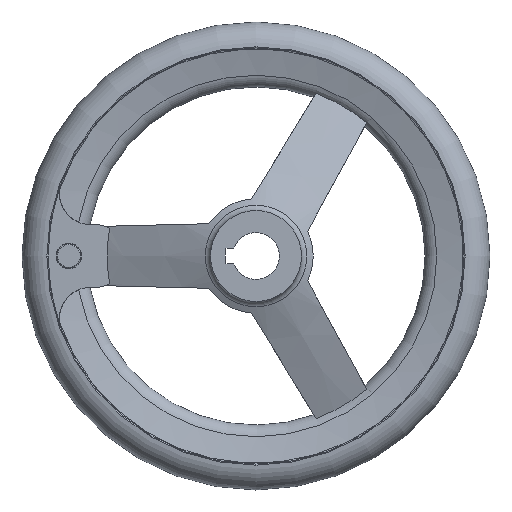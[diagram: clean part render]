
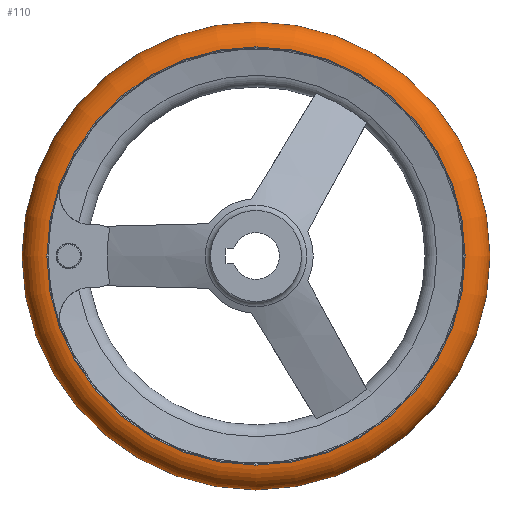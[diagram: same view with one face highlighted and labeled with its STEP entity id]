
A CAD part, left-side view. The second image highlights one B-rep face of the part: STEP entity #110.
In plain terms, the highlighted toroidal (fillet/blend) face has major radius 79.991 mm and minor radius 10.009 mm.
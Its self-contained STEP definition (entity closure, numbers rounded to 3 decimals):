
#110 = ADVANCED_FACE( '', ( #215, #216, #217 ), #218, .T. );
#215 = FACE_BOUND( '', #375, .T. );
#216 = FACE_OUTER_BOUND( '', #376, .T. );
#217 = FACE_OUTER_BOUND( '', #377, .T. );
#218 = TOROIDAL_SURFACE( '', #378, 79.991, 10.009 );
#375 = VERTEX_LOOP( '', #678 );
#376 = EDGE_LOOP( '', ( #679 ) );
#377 = EDGE_LOOP( '', ( #680 ) );
#378 = AXIS2_PLACEMENT_3D( '', #681, #682, #683 );
#678 = VERTEX_POINT( '', #873 );
#679 = ORIENTED_EDGE( '', *, *, #872, .T. );
#680 = ORIENTED_EDGE( '', *, *, #866, .F. );
#681 = CARTESIAN_POINT( '', ( 33., 0., 0. ) );
#682 = DIRECTION( '', ( 1., 0., 0. ) );
#683 = DIRECTION( '', ( 0., 1., 0. ) );
#866 = EDGE_CURVE( '', #1042, #1042, #1043, .T. );
#872 = EDGE_CURVE( '', #1053, #1053, #1054, .T. );
#873 = CARTESIAN_POINT( '', ( 33., 90., 0. ) );
#1042 = VERTEX_POINT( '', #1681 );
#1043 = CIRCLE( '', #1682, 80.417 );
#1053 = VERTEX_POINT( '', #1692 );
#1054 = CIRCLE( '', #1693, 80.417 );
#1681 = CARTESIAN_POINT( '', ( 43., 80.417, 0. ) );
#1682 = AXIS2_PLACEMENT_3D( '', #1851, #1852, #1853 );
#1692 = CARTESIAN_POINT( '', ( 23., 80.417, 0. ) );
#1693 = AXIS2_PLACEMENT_3D( '', #1869, #1870, #1871 );
#1851 = CARTESIAN_POINT( '', ( 43., 0., 0. ) );
#1852 = DIRECTION( '', ( 1., 0., 0. ) );
#1853 = DIRECTION( '', ( 0., 1., 0. ) );
#1869 = CARTESIAN_POINT( '', ( 23., 0., 0. ) );
#1870 = DIRECTION( '', ( 1., 0., 0. ) );
#1871 = DIRECTION( '', ( 0., 1., 0. ) );
